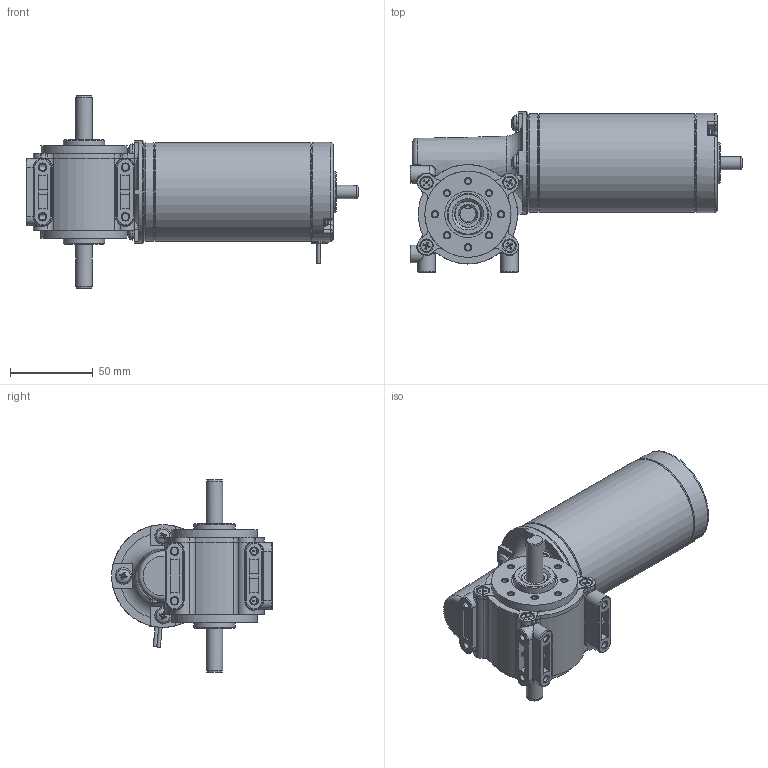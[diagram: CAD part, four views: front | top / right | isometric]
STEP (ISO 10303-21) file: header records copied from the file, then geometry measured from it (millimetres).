
FILE_DESCRIPTION(/* description */ (''),/* implementation_level */ '2;1');
FILE_NAME(/* name */ 'D:\yang\Yang cw\SPG 업무\7. 2D_3D 도면\3D 도면\RA TYPE\표준 RA TYPE 3D\RA61ㅁㅁB.stp',/* time_stamp */ '2017-09-29T15:18:29+09:00',/* author */ ('ycw1227'),/* organization */ (''),/* preprocessor_version */ 'ST-DEVELOPER v15.6',/* originating_system */ 'Autodesk Inventor 2015',/* authorisation */ '');
FILE_SCHEMA (('AUTOMOTIVE_DESIGN { 1 0 10303 214 3 1 1 }'));
Length unit declared in the file: millimetre
Products named in the file (1): 부품34
Bounding box: 200.5 x 97 x 116 mm (x, y, z)
Volume: 1662.4 mm3; surface area: 132729 mm2
Topology: 12 solids, 17 shells, 1048 faces, 2603 edges, 1661 vertices
Faces by surface type: plane 455, cylinder 277, cone 194, torus 75, bspline 36, sphere 11
Full cylindrical faces by diameter (mm): 2.2 x2, 3 x2, 3.242 x2, 3.4 x24, 3.571 x6, 4 x2, 4.1 x8, 4.134 x6, 4.2 x4, 4.51 x3, 4.6 x2, 5 x3, 7 x4, 8 x2, 8.2 x4, 9 x2, 10 x3, 16 x6, 22 x2, 24 x2, 24.9 x1, 25 x3, 28 x2, 30 x2, 32 x1, 35 x1, 47 x1, 51 x1, 52 x2, 53 x1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
Entity records: 33619 total; most frequent: CARTESIAN_POINT 9142, DIRECTION 4925, ORIENTED_EDGE 4652, EDGE_CURVE 2323, AXIS2_PLACEMENT_3D 2028, VERTEX_POINT 1598, EDGE_LOOP 1369, FACE_OUTER_BOUND 1048
